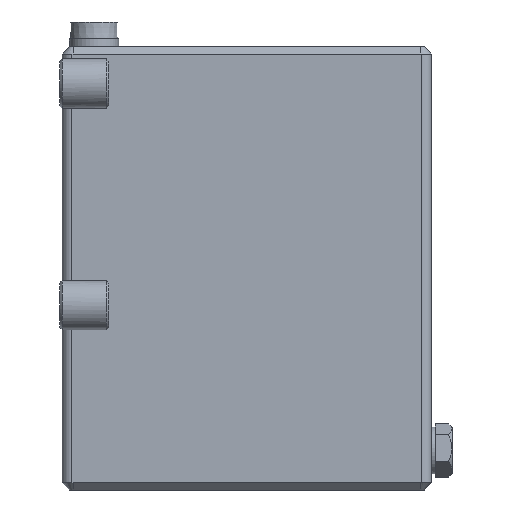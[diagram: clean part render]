
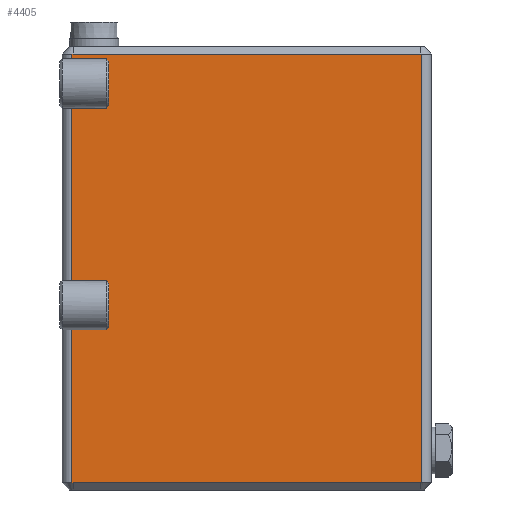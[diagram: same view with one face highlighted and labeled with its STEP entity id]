
A CAD part, left-side view. The second image highlights one B-rep face of the part: STEP entity #4405.
In plain terms, the highlighted planar face has unit normal (-1, 0, 0).
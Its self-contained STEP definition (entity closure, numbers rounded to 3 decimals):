
#71=LINE('',#6477,#261);
#72=LINE('',#6479,#262);
#74=LINE('',#6483,#264);
#76=LINE('',#6487,#266);
#79=LINE('',#6493,#269);
#80=LINE('',#6495,#270);
#82=LINE('',#6499,#272);
#84=LINE('',#6503,#274);
#99=LINE('',#6597,#289);
#100=LINE('',#6599,#290);
#101=LINE('',#6600,#291);
#102=LINE('',#6602,#292);
#103=LINE('',#6604,#293);
#104=LINE('',#6606,#294);
#105=LINE('',#6608,#295);
#106=LINE('',#6610,#296);
#107=LINE('',#6612,#297);
#108=LINE('',#6614,#298);
#261=VECTOR('',#5311,1000.);
#262=VECTOR('',#5314,1000.);
#264=VECTOR('',#5318,1000.);
#266=VECTOR('',#5322,1000.);
#269=VECTOR('',#5327,1000.);
#270=VECTOR('',#5330,1000.);
#272=VECTOR('',#5334,1000.);
#274=VECTOR('',#5338,1000.);
#289=VECTOR('',#5447,1000.);
#290=VECTOR('',#5448,1000.);
#291=VECTOR('',#5449,1000.);
#292=VECTOR('',#5450,1000.);
#293=VECTOR('',#5451,1000.);
#294=VECTOR('',#5452,1000.);
#295=VECTOR('',#5453,1000.);
#296=VECTOR('',#5454,1000.);
#297=VECTOR('',#5455,1000.);
#298=VECTOR('',#5456,1000.);
#862=ORIENTED_EDGE('',*,*,#1472,.T.);
#863=ORIENTED_EDGE('',*,*,#1429,.T.);
#864=ORIENTED_EDGE('',*,*,#1427,.T.);
#865=ORIENTED_EDGE('',*,*,#1425,.T.);
#866=ORIENTED_EDGE('',*,*,#1424,.T.);
#867=ORIENTED_EDGE('',*,*,#1473,.T.);
#868=ORIENTED_EDGE('',*,*,#1421,.T.);
#869=ORIENTED_EDGE('',*,*,#1419,.T.);
#870=ORIENTED_EDGE('',*,*,#1417,.T.);
#871=ORIENTED_EDGE('',*,*,#1416,.T.);
#872=ORIENTED_EDGE('',*,*,#1474,.T.);
#873=ORIENTED_EDGE('',*,*,#1475,.F.);
#874=ORIENTED_EDGE('',*,*,#1476,.F.);
#875=ORIENTED_EDGE('',*,*,#1477,.F.);
#876=ORIENTED_EDGE('',*,*,#1478,.T.);
#877=ORIENTED_EDGE('',*,*,#1479,.F.);
#878=ORIENTED_EDGE('',*,*,#1480,.F.);
#879=ORIENTED_EDGE('',*,*,#1481,.F.);
#1416=EDGE_CURVE('',#1777,#1778,#71,.T.);
#1417=EDGE_CURVE('',#1736,#1777,#72,.T.);
#1419=EDGE_CURVE('',#1779,#1736,#74,.T.);
#1421=EDGE_CURVE('',#1780,#1779,#76,.T.);
#1424=EDGE_CURVE('',#1781,#1782,#79,.T.);
#1425=EDGE_CURVE('',#1739,#1781,#80,.T.);
#1427=EDGE_CURVE('',#1783,#1739,#82,.T.);
#1429=EDGE_CURVE('',#1784,#1783,#84,.T.);
#1472=EDGE_CURVE('',#1817,#1784,#99,.T.);
#1473=EDGE_CURVE('',#1782,#1780,#100,.T.);
#1474=EDGE_CURVE('',#1778,#1818,#101,.T.);
#1475=EDGE_CURVE('',#1819,#1818,#102,.T.);
#1476=EDGE_CURVE('',#1820,#1819,#103,.T.);
#1477=EDGE_CURVE('',#1821,#1820,#104,.T.);
#1478=EDGE_CURVE('',#1821,#1822,#105,.T.);
#1479=EDGE_CURVE('',#1823,#1822,#106,.T.);
#1480=EDGE_CURVE('',#1824,#1823,#107,.T.);
#1481=EDGE_CURVE('',#1817,#1824,#108,.T.);
#1736=VERTEX_POINT('',#6347);
#1739=VERTEX_POINT('',#6354);
#1777=VERTEX_POINT('',#6474);
#1778=VERTEX_POINT('',#6476);
#1779=VERTEX_POINT('',#6482);
#1780=VERTEX_POINT('',#6486);
#1781=VERTEX_POINT('',#6490);
#1782=VERTEX_POINT('',#6492);
#1783=VERTEX_POINT('',#6498);
#1784=VERTEX_POINT('',#6502);
#1817=VERTEX_POINT('',#6598);
#1818=VERTEX_POINT('',#6601);
#1819=VERTEX_POINT('',#6603);
#1820=VERTEX_POINT('',#6605);
#1821=VERTEX_POINT('',#6607);
#1822=VERTEX_POINT('',#6609);
#1823=VERTEX_POINT('',#6611);
#1824=VERTEX_POINT('',#6613);
#2308=EDGE_LOOP('',(#862,#863,#864,#865,#866,#867,#868,#869,#870,#871,#872,
#873,#874,#875,#876,#877,#878,#879));
#2619=FACE_BOUND('',#2308,.T.);
#2786=PLANE('',#4739);
#4405=ADVANCED_FACE('',(#2619),#2786,.F.);
#4739=AXIS2_PLACEMENT_3D('',#6596,#5445,#5446);
#5311=DIRECTION('',(0.,1.,0.));
#5314=DIRECTION('',(0.,0.,-1.));
#5318=DIRECTION('',(0.,0.,-1.));
#5322=DIRECTION('',(0.,-1.,0.));
#5327=DIRECTION('',(0.,1.,0.));
#5330=DIRECTION('',(0.,0.,-1.));
#5334=DIRECTION('',(0.,0.,-1.));
#5338=DIRECTION('',(0.,-1.,0.));
#5445=DIRECTION('',(1.,0.,0.));
#5446=DIRECTION('',(0.,1.,0.));
#5447=DIRECTION('',(0.,0.,-1.));
#5448=DIRECTION('',(0.,0.,-1.));
#5449=DIRECTION('',(0.,0.,-1.));
#5450=DIRECTION('',(0.,1.,0.));
#5451=DIRECTION('',(0.,1.,0.));
#5452=DIRECTION('',(0.,1.,0.));
#5453=DIRECTION('',(0.,0.,1.));
#5454=DIRECTION('',(0.,-1.,0.));
#5455=DIRECTION('',(0.,-1.,0.));
#5456=DIRECTION('',(0.,-1.,0.));
#6347=CARTESIAN_POINT('',(-50.,57.,75.));
#6354=CARTESIAN_POINT('',(-50.,57.,165.));
#6474=CARTESIAN_POINT('',(-50.,57.,69.));
#6476=CARTESIAN_POINT('',(-50.,71.,69.));
#6477=CARTESIAN_POINT('',(-50.,57.,69.));
#6479=CARTESIAN_POINT('',(-50.,57.,90.));
#6482=CARTESIAN_POINT('',(-50.,57.,81.));
#6483=CARTESIAN_POINT('',(-50.,57.,90.));
#6486=CARTESIAN_POINT('',(-50.,71.,81.));
#6487=CARTESIAN_POINT('',(-50.,71.,81.));
#6490=CARTESIAN_POINT('',(-50.,57.,159.));
#6492=CARTESIAN_POINT('',(-50.,71.,159.));
#6493=CARTESIAN_POINT('',(-50.,57.,159.));
#6495=CARTESIAN_POINT('',(-50.,57.,90.));
#6498=CARTESIAN_POINT('',(-50.,57.,171.));
#6499=CARTESIAN_POINT('',(-50.,57.,90.));
#6502=CARTESIAN_POINT('',(-50.,71.,171.));
#6503=CARTESIAN_POINT('',(-50.,71.,171.));
#6596=CARTESIAN_POINT('',(-50.,0.,90.));
#6597=CARTESIAN_POINT('',(-50.,71.,177.));
#6598=CARTESIAN_POINT('',(-50.,71.,177.));
#6599=CARTESIAN_POINT('',(-50.,71.,177.));
#6600=CARTESIAN_POINT('',(-50.,71.,177.));
#6601=CARTESIAN_POINT('',(-50.,71.,3.));
#6602=CARTESIAN_POINT('',(-50.,-75.,3.));
#6603=CARTESIAN_POINT('',(-50.,70.5,3.));
#6604=CARTESIAN_POINT('',(-50.,-75.,3.));
#6605=CARTESIAN_POINT('',(-50.,-70.5,3.));
#6606=CARTESIAN_POINT('',(-50.,-75.,3.));
#6607=CARTESIAN_POINT('',(-50.,-71.,3.));
#6608=CARTESIAN_POINT('',(-50.,-71.,3.));
#6609=CARTESIAN_POINT('',(-50.,-71.,177.));
#6610=CARTESIAN_POINT('',(-50.,75.,177.));
#6611=CARTESIAN_POINT('',(-50.,-70.5,177.));
#6612=CARTESIAN_POINT('',(-50.,75.,177.));
#6613=CARTESIAN_POINT('',(-50.,70.5,177.));
#6614=CARTESIAN_POINT('',(-50.,75.,177.));
